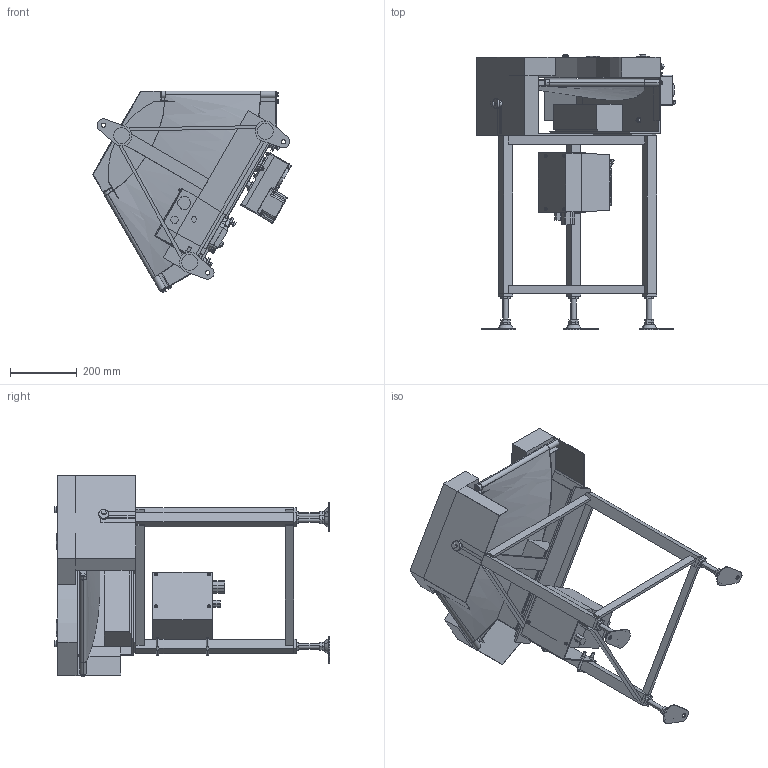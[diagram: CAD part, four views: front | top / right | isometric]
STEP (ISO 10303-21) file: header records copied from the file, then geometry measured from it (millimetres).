
FILE_DESCRIPTION (( 'STEP AP214' ), '1' );
FILE_NAME ('GFBC60-HS200-DC-R.STEP', '2024-01-18T02:11:22', ( '' ), ( '' ), 'SwSTEP 2.0', 'SolidWorks 2017', '' );
FILE_SCHEMA (( 'AUTOMOTIVE_DESIGN' ));
Length unit declared in the file: millimetre
Products named in the file (1): GFBC60-HS200-DC-R
Bounding box: 597.19 x 827.92 x 606.62 mm (x, y, z)
Volume: 17827727 mm3; surface area: 2977070 mm2
Topology: 65 solids, 66 shells, 1419 faces, 3316 edges, 2120 vertices
Faces by surface type: plane 872, cylinder 408, cone 73, bspline 42, torus 20, sphere 4
Entity records: 48187 total; most frequent: CARTESIAN_POINT 14726, DIRECTION 6817, ORIENTED_EDGE 6584, EDGE_CURVE 3292, AXIS2_PLACEMENT_3D 2352, VERTEX_POINT 2120, LINE 2113, VECTOR 2113
